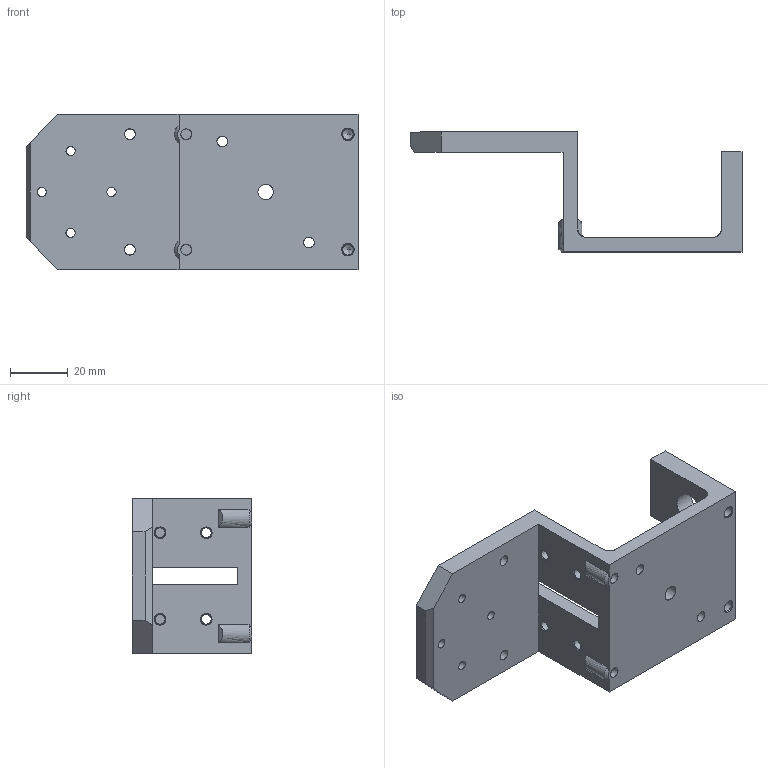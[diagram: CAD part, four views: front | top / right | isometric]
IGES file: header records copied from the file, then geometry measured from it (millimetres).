
Global section: file name: C:\Users\gehrichcr\Documents\1 Drive Backup\Practice\Inspire\V1.5\IGES\Frame Bottom Short.igs; native system: NX V8.5; preprocessor: SIEMENS PLM Software NX 8.5; date: 20150608.124900; units: millimetre
Bounding box: 115 x 41.5 x 54 mm (x, y, z)
Surface area: 23460.6 mm2 (no closed solid volume)
Topology: 0 solids, 0 shells, 94 faces, 860 edges, 836 vertices
Faces by surface type: bspline 94
